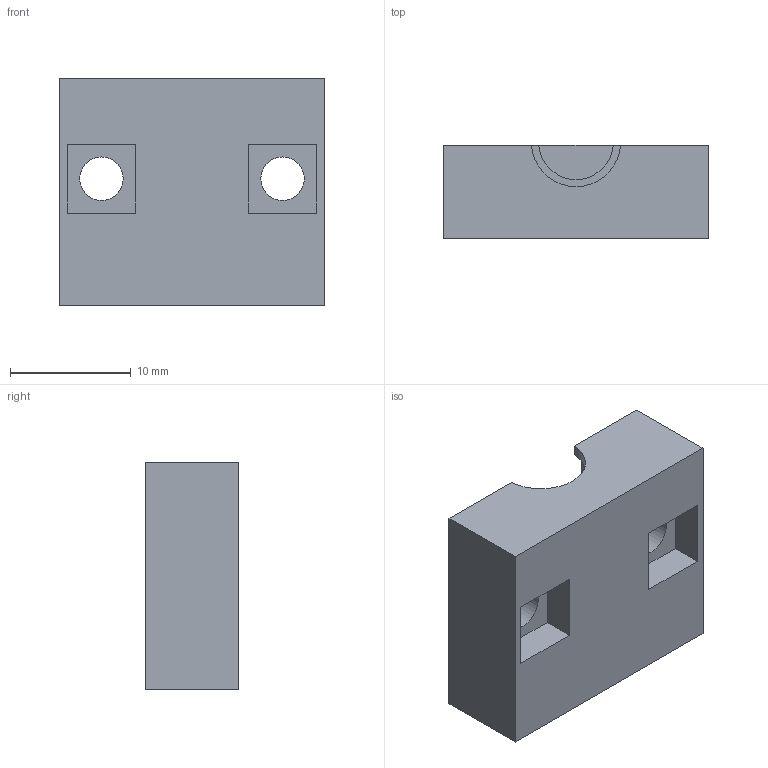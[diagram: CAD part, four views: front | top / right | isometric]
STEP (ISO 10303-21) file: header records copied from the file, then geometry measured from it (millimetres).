
FILE_DESCRIPTION(('Open CASCADE Model'),'2;1');
FILE_NAME('Open CASCADE Shape Model','2026-10-26T03:08:16',('Author'),( 'Open CASCADE'),'Open CASCADE STEP processor 7.9','build123d', 'Unknown');
FILE_SCHEMA(('AUTOMOTIVE_DESIGN { 1 0 10303 214 1 1 1 1 }'));
Length unit declared in the file: millimetre
Products named in the file (1): COMPOUND
Bounding box: 22 x 7.75 x 18.8 mm (x, y, z)
Volume: 2644 mm3; surface area: 1732.4 mm2
Topology: 1 solids, 1 shells, 26 faces, 66 edges, 44 vertices
Faces by surface type: plane 20, cylinder 6
Full cylindrical faces by diameter (mm): 3.6 x2
Entity records: 1630 total; most frequent: CARTESIAN_POINT 333, DIRECTION 220, LINE 134, VECTOR 134, ORIENTED_EDGE 132, PCURVE 132, DEFINITIONAL_REPRESENTATION 132, EDGE_CURVE 66
